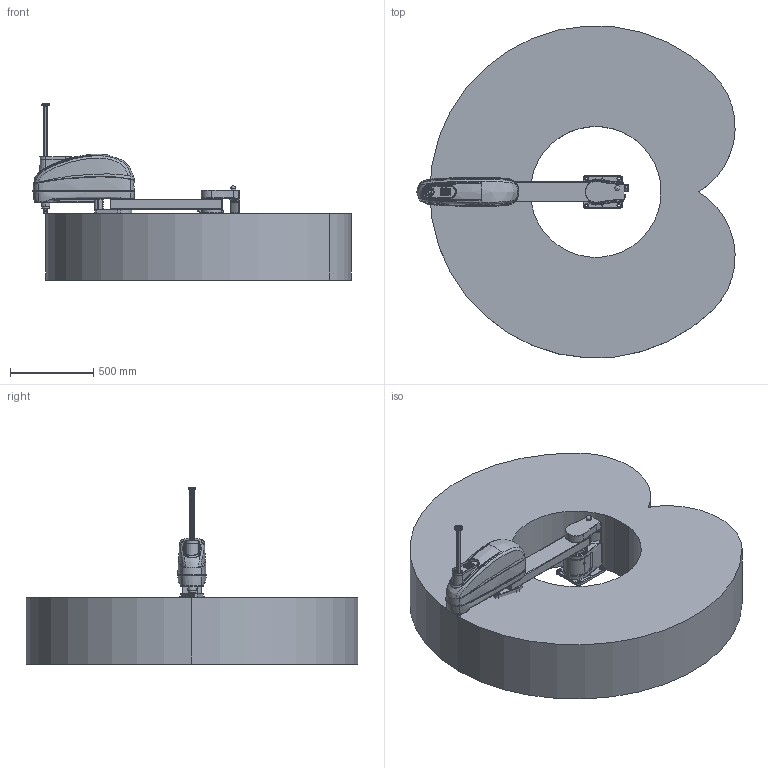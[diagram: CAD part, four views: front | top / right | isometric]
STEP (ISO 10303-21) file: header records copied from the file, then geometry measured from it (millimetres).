
FILE_DESCRIPTION (( 'STEP AP214' ), '1' );
FILE_NAME ('AIR20SC1000Z40A 3D model.STP', '2024-02-06T05:37:35', ( 'Windows User' ), ( 'P R C' ), 'SwSTEP 2.0', 'SolidWorks 2011', '' );
FILE_SCHEMA (( 'AUTOMOTIVE_DESIGN' ));
Length unit declared in the file: millimetre
Products named in the file (6): AIR20SC1000Z40A 3D model; AIR20SC1000Z40A-Base; AIR20SC1000Z40A-Upper-arm; AIR20SC1000Z40A-Lower-arm; AIR20SC1000Z40A-Screw spline; AIR20SC-1000Z40A-Working range
Assembly tree (5 placements, depth 2):
  AIR20SC1000Z40A 3D model
    AIR20SC1000Z40A-Screw spline
    AIR20SC1000Z40A-Lower-arm
    AIR20SC-1000Z40A-Working range
    AIR20SC1000Z40A-Upper-arm
    AIR20SC1000Z40A-Base
Bounding box: 1915.33 x 1996.85 x 1060 mm (x, y, z)
Volume: 1027189383 mm3; surface area: 10191424.2 mm2
Topology: 53 solids, 67 shells, 4048 faces, 9845 edges, 6200 vertices
Faces by surface type: plane 1670, cylinder 1333, cone 588, bspline 345, torus 97, sphere 15
Entity records: 193555 total; most frequent: CARTESIAN_POINT 74158, DIRECTION 19734, ORIENTED_EDGE 19422, EDGE_CURVE 9711, AXIS2_PLACEMENT_3D 7483, VERTEX_POINT 6186, LINE 4768, VECTOR 4768
